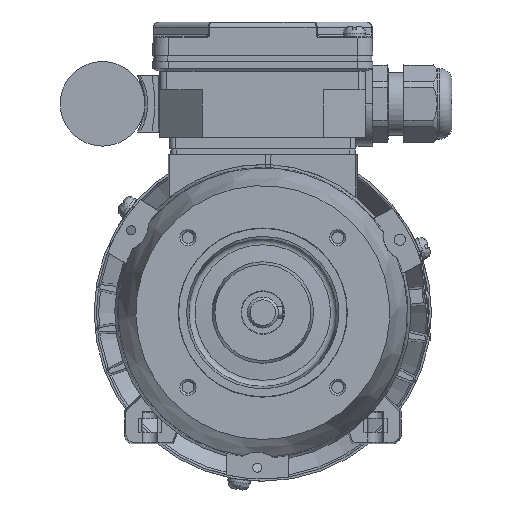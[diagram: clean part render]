
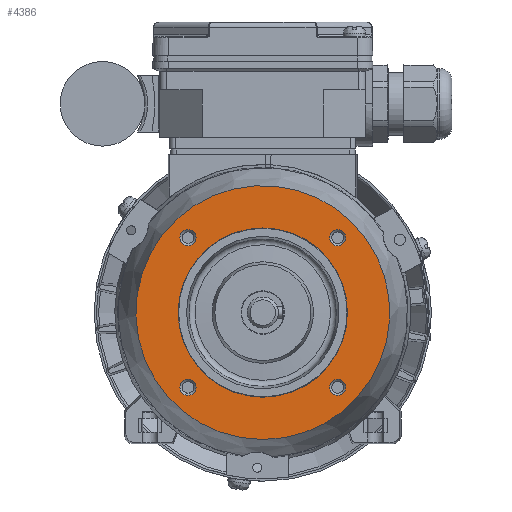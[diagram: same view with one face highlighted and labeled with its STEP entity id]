
A CAD part, left-side view. The second image highlights one B-rep face of the part: STEP entity #4386.
In plain terms, the highlighted planar face has unit normal (-1, 0, 0) as drawn and (0, -1, 0) by its records, which use the part's own axes.
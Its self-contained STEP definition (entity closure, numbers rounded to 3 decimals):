
#4386 = ADVANCED_FACE( '', ( #9141, #9142, #9143, #9144, #9145, #9146 ), #9147, .T. );
#9141 = FACE_BOUND( '', #20868, .T. );
#9142 = FACE_BOUND( '', #20869, .T. );
#9143 = FACE_BOUND( '', #20870, .T. );
#9144 = FACE_BOUND( '', #20871, .T. );
#9145 = FACE_OUTER_BOUND( '', #20872, .T. );
#9146 = FACE_BOUND( '', #20873, .T. );
#9147 = PLANE( '', #20874 );
#20868 = EDGE_LOOP( '', ( #35071 ) );
#20869 = EDGE_LOOP( '', ( #35072 ) );
#20870 = EDGE_LOOP( '', ( #35073 ) );
#20871 = EDGE_LOOP( '', ( #35074 ) );
#20872 = EDGE_LOOP( '', ( #35075 ) );
#20873 = EDGE_LOOP( '', ( #35076 ) );
#20874 = AXIS2_PLACEMENT_3D( '', #35077, #35078, #35079 );
#35071 = ORIENTED_EDGE( '', *, *, #45366, .T. );
#35072 = ORIENTED_EDGE( '', *, *, #45367, .T. );
#35073 = ORIENTED_EDGE( '', *, *, #45368, .T. );
#35074 = ORIENTED_EDGE( '', *, *, #44037, .T. );
#35075 = ORIENTED_EDGE( '', *, *, #44502, .T. );
#35076 = ORIENTED_EDGE( '', *, *, #42026, .F. );
#35077 = CARTESIAN_POINT( '', ( 0., 2.5, 30. ) );
#35078 = DIRECTION( '', ( 0., -1., 0. ) );
#35079 = DIRECTION( '', ( 0., 0., -1. ) );
#42026 = EDGE_CURVE( '', #50033, #50033, #50034, .T. );
#44037 = EDGE_CURVE( '', #53199, #53199, #53200, .F. );
#44502 = EDGE_CURVE( '', #53877, #53877, #53878, .T. );
#45366 = EDGE_CURVE( '', #54957, #54957, #54958, .F. );
#45367 = EDGE_CURVE( '', #54959, #54959, #54960, .F. );
#45368 = EDGE_CURVE( '', #54961, #54961, #54962, .F. );
#50033 = VERTEX_POINT( '', #62458 );
#50034 = CIRCLE( '', #62459, 30. );
#53199 = VERTEX_POINT( '', #69107 );
#53200 = CIRCLE( '', #69108, 2.867 );
#53877 = VERTEX_POINT( '', #70277 );
#53878 = CIRCLE( '', #70278, 45. );
#54957 = VERTEX_POINT( '', #73345 );
#54958 = CIRCLE( '', #73346, 2.867 );
#54959 = VERTEX_POINT( '', #73347 );
#54960 = CIRCLE( '', #73348, 2.867 );
#54961 = VERTEX_POINT( '', #73349 );
#54962 = CIRCLE( '', #73350, 2.867 );
#62458 = CARTESIAN_POINT( '', ( 0., 2.5, -30. ) );
#62459 = AXIS2_PLACEMENT_3D( '', #77739, #77740, #77741 );
#69107 = CARTESIAN_POINT( '', ( -26.517, 2.5, 23.65 ) );
#69108 = AXIS2_PLACEMENT_3D( '', #80363, #80364, #80365 );
#70277 = CARTESIAN_POINT( '', ( 0., 2.5, -45. ) );
#70278 = AXIS2_PLACEMENT_3D( '', #81051, #81052, #81053 );
#73345 = CARTESIAN_POINT( '', ( -26.517, 2.5, -29.384 ) );
#73346 = AXIS2_PLACEMENT_3D( '', #81810, #81811, #81812 );
#73347 = CARTESIAN_POINT( '', ( 26.517, 2.5, -29.384 ) );
#73348 = AXIS2_PLACEMENT_3D( '', #81813, #81814, #81815 );
#73349 = CARTESIAN_POINT( '', ( 26.517, 2.5, 23.65 ) );
#73350 = AXIS2_PLACEMENT_3D( '', #81816, #81817, #81818 );
#77739 = CARTESIAN_POINT( '', ( 0., 2.5, 0. ) );
#77740 = DIRECTION( '', ( 0., -1., 0. ) );
#77741 = DIRECTION( '', ( 0., 0., -1. ) );
#80363 = CARTESIAN_POINT( '', ( -26.517, 2.5, 26.517 ) );
#80364 = DIRECTION( '', ( 0., -1., 0. ) );
#80365 = DIRECTION( '', ( 0., 0., -1. ) );
#81051 = CARTESIAN_POINT( '', ( 0., 2.5, 0. ) );
#81052 = DIRECTION( '', ( 0., -1., 0. ) );
#81053 = DIRECTION( '', ( 0., 0., -1. ) );
#81810 = CARTESIAN_POINT( '', ( -26.517, 2.5, -26.517 ) );
#81811 = DIRECTION( '', ( 0., -1., 0. ) );
#81812 = DIRECTION( '', ( 0., 0., -1. ) );
#81813 = CARTESIAN_POINT( '', ( 26.517, 2.5, -26.517 ) );
#81814 = DIRECTION( '', ( 0., -1., 0. ) );
#81815 = DIRECTION( '', ( 0., 0., -1. ) );
#81816 = CARTESIAN_POINT( '', ( 26.517, 2.5, 26.517 ) );
#81817 = DIRECTION( '', ( 0., -1., 0. ) );
#81818 = DIRECTION( '', ( 0., 0., -1. ) );
